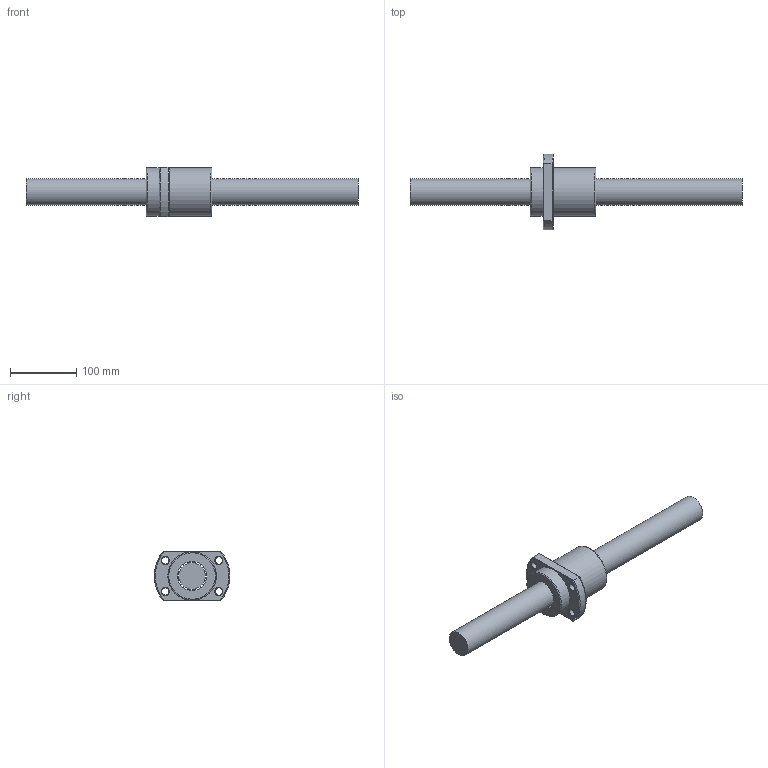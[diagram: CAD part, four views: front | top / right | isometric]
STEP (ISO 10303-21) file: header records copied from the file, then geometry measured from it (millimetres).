
FILE_DESCRIPTION (( 'STEP AP203' ), '1' );
FILE_NAME ('SFY04040-3.6.step', '2024-05-21T08:57:24', ( '' ), ( '' ), 'SwSTEP 2.0', 'SolidWorks 2022', '' );
FILE_SCHEMA (( 'CONFIG_CONTROL_DESIGN' ));
Length unit declared in the file: millimetre
Products named in the file (1): SFY04040-3.6
Bounding box: 500 x 113.82 x 75 mm (x, y, z)
Volume: 942073 mm3; surface area: 117067.4 mm2
Topology: 2 solids, 2 shells, 51 faces, 123 edges, 78 vertices
Faces by surface type: cylinder 18, plane 13, cone 9, torus 6, bspline 5
Full cylindrical faces by diameter (mm): 4 x1, 5 x6, 11 x4, 40 x1, 43.8 x1, 73 x2
Entity records: 3019 total; most frequent: CARTESIAN_POINT 2058, DIRECTION 170, ORIENTED_EDGE 156, EDGE_LOOP 80, EDGE_CURVE 78, AXIS2_PLACEMENT_3D 77, VERTEX_POINT 62, FACE_OUTER_BOUND 57
